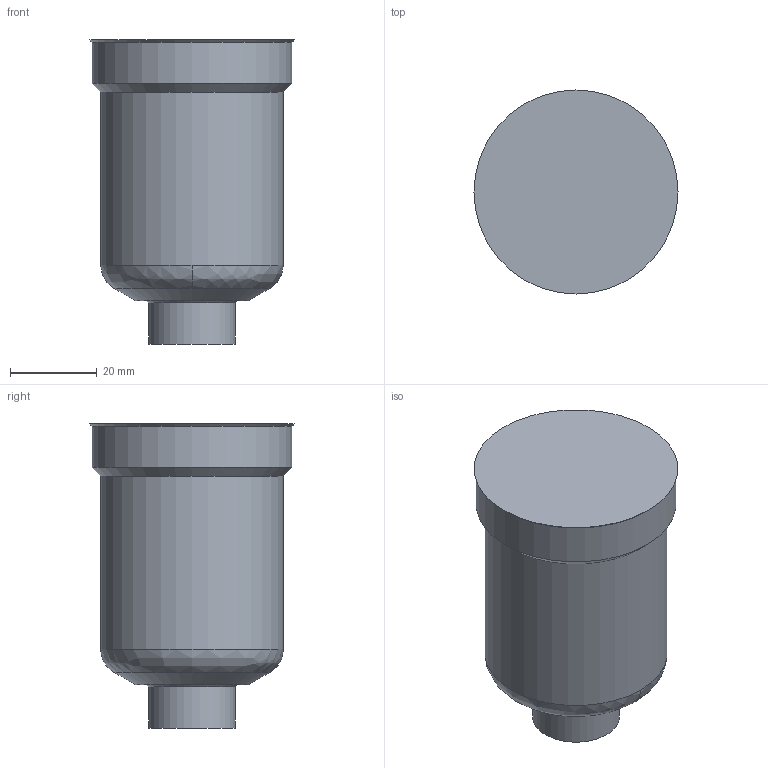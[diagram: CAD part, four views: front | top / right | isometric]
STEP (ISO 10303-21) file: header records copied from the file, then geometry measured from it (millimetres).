
FILE_DESCRIPTION(('STEP AP214'),'1');
FILE_NAME('SEDE FLM10-C.stp','2018-06-12T09:02:33',(' '),(' '),'Spatial InterOp 3D',' ',' ');
FILE_SCHEMA(('AUTOMOTIVE_DESIGN { 1 0 10303 214 1 1 1 1 }'));
Length unit declared in the file: millimetre
Products named in the file (1): 1
Bounding box: 47 x 47 x 70 mm (x, y, z)
Volume: 86955.3 mm3; surface area: 11360.5 mm2
Topology: 1 solids, 1 shells, 12 faces, 23 edges, 14 vertices
Faces by surface type: cone 4, plane 3, cylinder 3, bspline 2
Full cylindrical faces by diameter (mm): 20 x1, 42 x1, 46 x1
Entity records: 391 total; most frequent: CARTESIAN_POINT 69, DIRECTION 50, ORIENTED_EDGE 28, AXIS2_PLACEMENT_3D 25, EDGE_LOOP 20, FACE_OUTER_BOUND 15, EDGE_CURVE 14, CIRCLE 14
